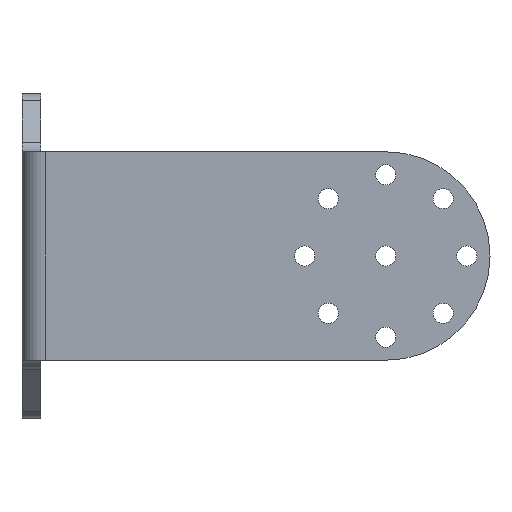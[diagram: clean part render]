
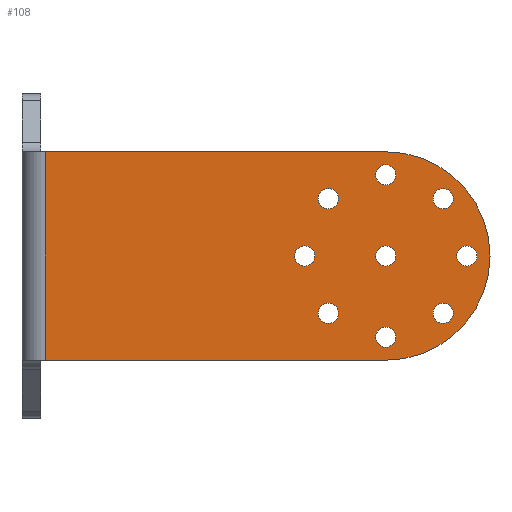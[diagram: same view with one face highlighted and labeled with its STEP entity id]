
A CAD part, left-side view. The second image highlights one B-rep face of the part: STEP entity #108.
In plain terms, the highlighted planar face has unit normal (-1, 0, 0).
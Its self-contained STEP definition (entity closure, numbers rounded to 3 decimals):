
#108=ADVANCED_FACE('',(#364,#365,#366,#367,#368,#369,#370,#371,#372,#373),
#158,.F.);
#158=PLANE('',#1074);
#227=LINE('',#1579,#309);
#228=LINE('',#1582,#310);
#229=LINE('',#1584,#311);
#309=VECTOR('',#1256,1.);
#310=VECTOR('',#1257,1.);
#311=VECTOR('',#1258,1.);
#364=FACE_BOUND('',#418,.T.);
#365=FACE_BOUND('',#419,.T.);
#366=FACE_BOUND('',#420,.T.);
#367=FACE_BOUND('',#421,.T.);
#368=FACE_BOUND('',#422,.T.);
#369=FACE_BOUND('',#423,.T.);
#370=FACE_BOUND('',#424,.T.);
#371=FACE_BOUND('',#425,.T.);
#372=FACE_BOUND('',#426,.T.);
#373=FACE_BOUND('',#427,.T.);
#418=EDGE_LOOP('',(#571,#572,#573,#574));
#419=EDGE_LOOP('',(#575));
#420=EDGE_LOOP('',(#576));
#421=EDGE_LOOP('',(#577));
#422=EDGE_LOOP('',(#578));
#423=EDGE_LOOP('',(#579));
#424=EDGE_LOOP('',(#580));
#425=EDGE_LOOP('',(#581));
#426=EDGE_LOOP('',(#582));
#427=EDGE_LOOP('',(#583));
#571=ORIENTED_EDGE('',*,*,#925,.T.);
#572=ORIENTED_EDGE('',*,*,#926,.T.);
#573=ORIENTED_EDGE('',*,*,#927,.T.);
#574=ORIENTED_EDGE('',*,*,#928,.T.);
#575=ORIENTED_EDGE('',*,*,#929,.F.);
#576=ORIENTED_EDGE('',*,*,#930,.F.);
#577=ORIENTED_EDGE('',*,*,#931,.F.);
#578=ORIENTED_EDGE('',*,*,#932,.F.);
#579=ORIENTED_EDGE('',*,*,#933,.F.);
#580=ORIENTED_EDGE('',*,*,#934,.F.);
#581=ORIENTED_EDGE('',*,*,#935,.F.);
#582=ORIENTED_EDGE('',*,*,#936,.T.);
#583=ORIENTED_EDGE('',*,*,#937,.T.);
#827=VERTEX_POINT('',#1580);
#828=VERTEX_POINT('',#1581);
#829=VERTEX_POINT('',#1583);
#830=VERTEX_POINT('',#1585);
#831=VERTEX_POINT('',#1588);
#832=VERTEX_POINT('',#1590);
#833=VERTEX_POINT('',#1592);
#834=VERTEX_POINT('',#1594);
#835=VERTEX_POINT('',#1596);
#836=VERTEX_POINT('',#1598);
#837=VERTEX_POINT('',#1600);
#838=VERTEX_POINT('',#1602);
#839=VERTEX_POINT('',#1604);
#925=EDGE_CURVE('',#827,#828,#227,.T.);
#926=EDGE_CURVE('',#828,#829,#228,.T.);
#927=EDGE_CURVE('',#829,#830,#229,.T.);
#928=EDGE_CURVE('',#830,#827,#1008,.T.);
#929=EDGE_CURVE('',#831,#831,#1009,.T.);
#930=EDGE_CURVE('',#832,#832,#1010,.T.);
#931=EDGE_CURVE('',#833,#833,#1011,.T.);
#932=EDGE_CURVE('',#834,#834,#1012,.T.);
#933=EDGE_CURVE('',#835,#835,#1013,.T.);
#934=EDGE_CURVE('',#836,#836,#1014,.T.);
#935=EDGE_CURVE('',#837,#837,#1015,.T.);
#936=EDGE_CURVE('',#838,#838,#1016,.T.);
#937=EDGE_CURVE('',#839,#839,#1017,.T.);
#1008=CIRCLE('',#1064,22.5);
#1009=CIRCLE('',#1065,2.175);
#1010=CIRCLE('',#1066,2.175);
#1011=CIRCLE('',#1067,2.175);
#1012=CIRCLE('',#1068,2.175);
#1013=CIRCLE('',#1069,2.175);
#1014=CIRCLE('',#1070,2.175);
#1015=CIRCLE('',#1071,2.175);
#1016=CIRCLE('',#1072,2.175);
#1017=CIRCLE('',#1073,2.175);
#1064=AXIS2_PLACEMENT_3D('',#1586,#1259,#1260);
#1065=AXIS2_PLACEMENT_3D('',#1587,#1261,#1262);
#1066=AXIS2_PLACEMENT_3D('',#1589,#1263,#1264);
#1067=AXIS2_PLACEMENT_3D('',#1591,#1265,#1266);
#1068=AXIS2_PLACEMENT_3D('',#1593,#1267,#1268);
#1069=AXIS2_PLACEMENT_3D('',#1595,#1269,#1270);
#1070=AXIS2_PLACEMENT_3D('',#1597,#1271,#1272);
#1071=AXIS2_PLACEMENT_3D('',#1599,#1273,#1274);
#1072=AXIS2_PLACEMENT_3D('',#1601,#1275,#1276);
#1073=AXIS2_PLACEMENT_3D('',#1603,#1277,#1278);
#1074=AXIS2_PLACEMENT_3D('',#1605,#1279,#1280);
#1256=DIRECTION('',(0.,1.,0.));
#1257=DIRECTION('',(0.,0.,-1.));
#1258=DIRECTION('',(0.,-1.,0.));
#1259=DIRECTION('',(-1.,0.,0.));
#1260=DIRECTION('',(0.,0.,1.));
#1261=DIRECTION('',(-1.,0.,0.));
#1262=DIRECTION('',(0.,-1.,0.));
#1263=DIRECTION('',(-1.,0.,0.));
#1264=DIRECTION('',(0.,0.,1.));
#1265=DIRECTION('',(-1.,0.,0.));
#1266=DIRECTION('',(0.,0.,1.));
#1267=DIRECTION('',(-1.,0.,0.));
#1268=DIRECTION('',(0.,0.,1.));
#1269=DIRECTION('',(-1.,0.,0.));
#1270=DIRECTION('',(0.,0.,1.));
#1271=DIRECTION('',(-1.,0.,0.));
#1272=DIRECTION('',(0.,0.,1.));
#1273=DIRECTION('',(-1.,0.,0.));
#1274=DIRECTION('',(0.,0.,1.));
#1275=DIRECTION('',(1.,0.,0.));
#1276=DIRECTION('',(0.,-1.,0.));
#1277=DIRECTION('',(1.,0.,0.));
#1278=DIRECTION('',(0.,-1.,0.));
#1279=DIRECTION('',(1.,0.,0.));
#1280=DIRECTION('',(0.,1.,0.));
#1579=CARTESIAN_POINT('',(-3.,-1.5,22.5));
#1580=CARTESIAN_POINT('',(-3.,-1.5,22.5));
#1581=CARTESIAN_POINT('',(-3.,72.,22.5));
#1582=CARTESIAN_POINT('',(-3.,72.,35.));
#1583=CARTESIAN_POINT('',(-3.,72.,-22.5));
#1584=CARTESIAN_POINT('',(-3.,85.,-22.5));
#1585=CARTESIAN_POINT('',(-3.,-1.5,-22.5));
#1586=CARTESIAN_POINT('',(-3.,-1.5,0.));
#1587=CARTESIAN_POINT('',(-3.,-1.5,17.5));
#1588=CARTESIAN_POINT('',(-3.,-3.675,17.5));
#1589=CARTESIAN_POINT('',(-3.,-13.874,-12.374));
#1590=CARTESIAN_POINT('',(-3.,-13.874,-10.199));
#1591=CARTESIAN_POINT('',(-3.,-19.,0.));
#1592=CARTESIAN_POINT('',(-3.,-19.,2.175));
#1593=CARTESIAN_POINT('',(-3.,-13.874,12.374));
#1594=CARTESIAN_POINT('',(-3.,-13.874,14.549));
#1595=CARTESIAN_POINT('',(-3.,10.874,-12.374));
#1596=CARTESIAN_POINT('',(-3.,10.874,-10.199));
#1597=CARTESIAN_POINT('',(-3.,16.,0.));
#1598=CARTESIAN_POINT('',(-3.,16.,2.175));
#1599=CARTESIAN_POINT('',(-3.,10.874,12.374));
#1600=CARTESIAN_POINT('',(-3.,10.874,14.549));
#1601=CARTESIAN_POINT('',(-3.,-1.5,-17.5));
#1602=CARTESIAN_POINT('',(-3.,-3.675,-17.5));
#1603=CARTESIAN_POINT('',(-3.,-1.5,0.));
#1604=CARTESIAN_POINT('',(-3.,-3.675,0.));
#1605=CARTESIAN_POINT('',(-3.,77.,35.));
